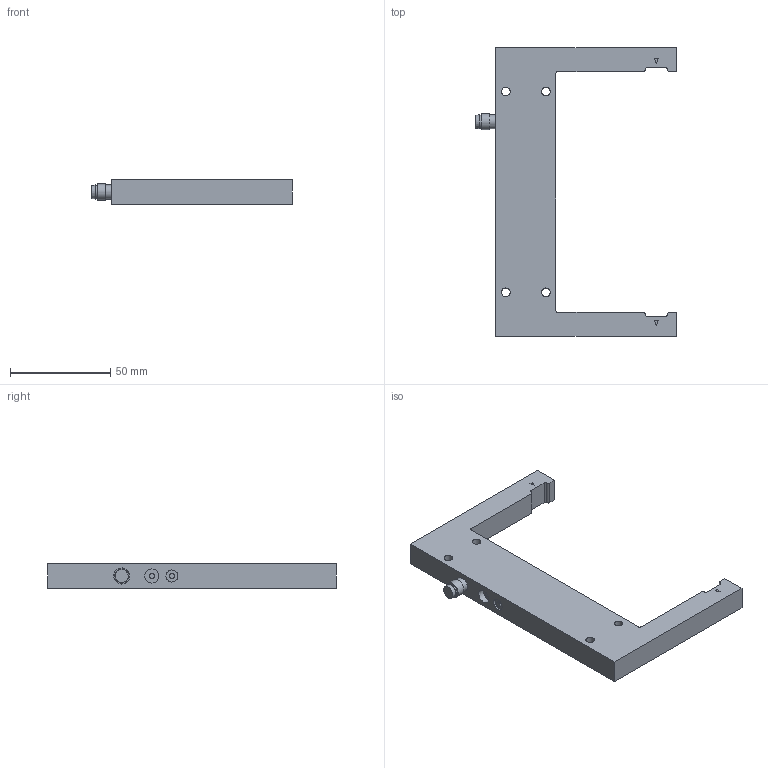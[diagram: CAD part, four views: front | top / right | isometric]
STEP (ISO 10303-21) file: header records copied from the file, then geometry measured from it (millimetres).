
FILE_DESCRIPTION(/* description */ (''),/* implementation_level */ '2;1');
FILE_NAME(/* name */ '3DCAD_GSxxB_x_1_120_M8_3.stp',/* time_stamp */ '2021-04-26T10:19:20+02:00',/* author */ ('CC2'),/* organization */ ('Leuze electronic'),/* preprocessor_version */ 'ST-DEVELOPER v16',/* originating_system */ 'SIEMENS PLM Software NX 11.0',/* authorisation */ '');
FILE_SCHEMA (('AUTOMOTIVE_DESIGN { 1 0 10303 214 3 1 1 1 }'));
Length unit declared in the file: millimetre
Products named in the file (1): 19-103286_00_1-3DCAD_GSxxB_x_1_120_M8_3
Bounding box: 100 x 144 x 12 mm (x, y, z)
Volume: 68170.2 mm3; surface area: 19460 mm2
Topology: 1 solids, 2 shells, 55 faces, 123 edges, 82 vertices
Faces by surface type: plane 32, cylinder 22, cone 1
Full cylindrical faces by diameter (mm): 2.5 x2, 3 x1, 4.3 x4, 6 x1, 6.5 x1, 7 x2, 8 x1
Entity records: 1516 total; most frequent: DIRECTION 268, CARTESIAN_POINT 248, ORIENTED_EDGE 220, EDGE_CURVE 110, AXIS2_PLACEMENT_3D 102, EDGE_LOOP 86, VERTEX_POINT 82, LINE 64
